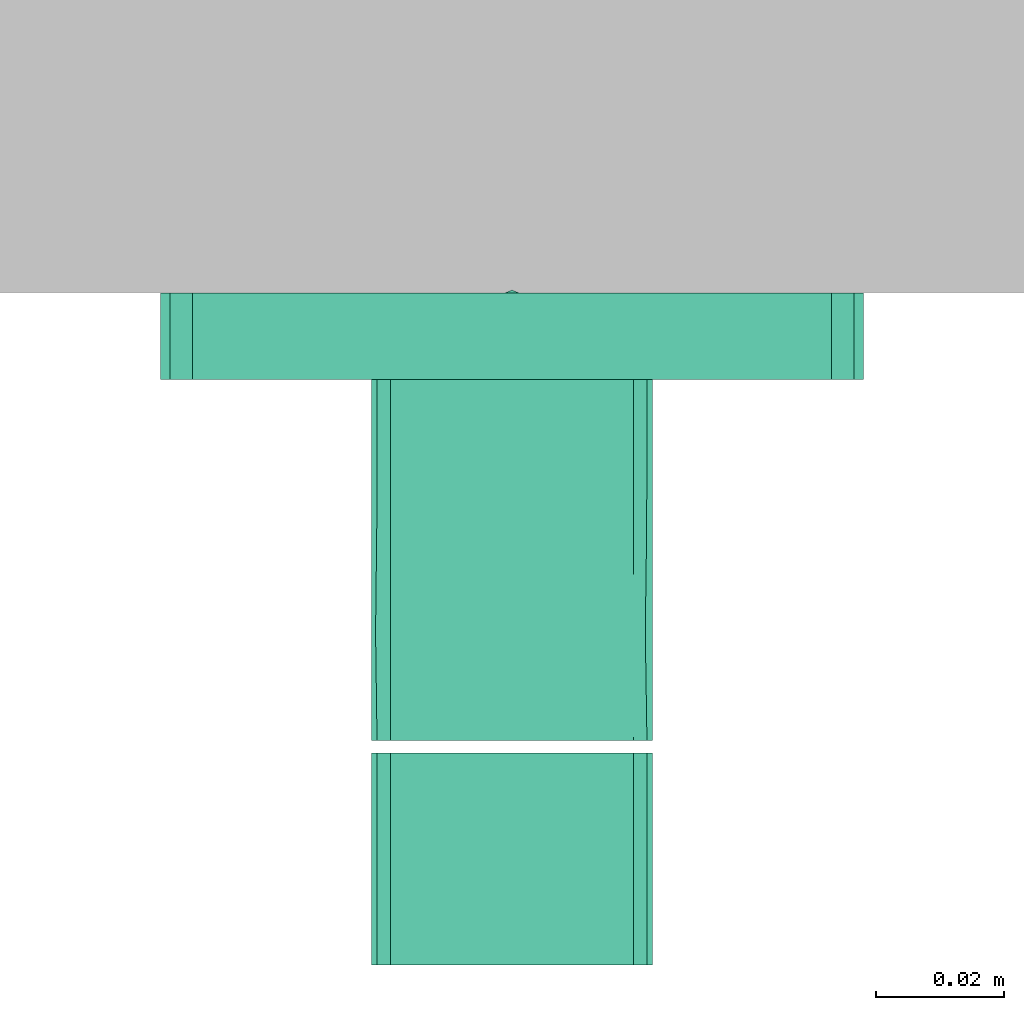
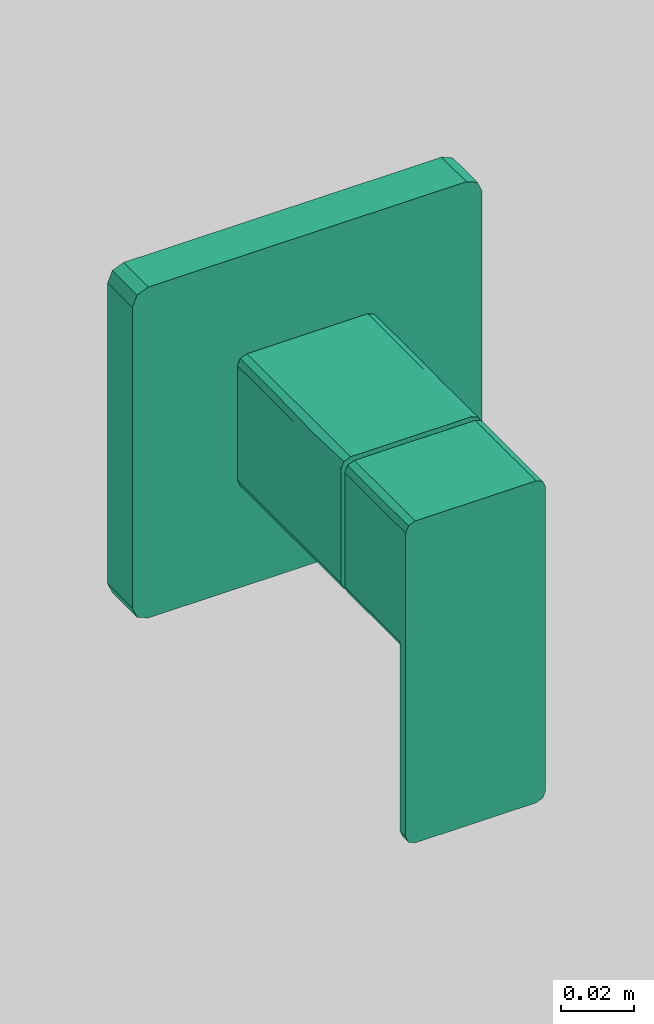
# One storey, part 2 of 2: 1 flow terminal.
"""IFC2X3 building model written with IfcOpenShell, lengths in millimetres."""

from ifc_helpers import new_model, entity, si_unit, converted_unit, derived_unit, direction, frame, origin, place, context, subcontext, project, spatial, faceted_brep, source, transform, mapped, material, type_object, type_shapes, element, save


model = new_model("IFC2X3")

# Units and contexts
model_context = context("Model", 3, precision=0.01, world=origin(), true_north=direction((6.12303176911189e-17, 1.0)))
body_context = subcontext(model_context, "Body", "Model", "MODEL_VIEW")
ifc_project = project(units=[si_unit("LENGTHUNIT", "METRE", prefix="MILLI"), si_unit("AREAUNIT", "SQUARE_METRE"), si_unit("VOLUMEUNIT", "CUBIC_METRE"), converted_unit("PLANEANGLEUNIT", "DEGREE", entity("IfcRatioMeasure", 0.0174532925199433), si_unit("PLANEANGLEUNIT", "RADIAN"), dimensions=[0, 0, 0, 0, 0, 0, 0]), si_unit("MASSUNIT", "GRAM", prefix="KILO"), derived_unit("MASSDENSITYUNIT", [(si_unit("MASSUNIT", "GRAM", prefix="KILO"), 1), (si_unit("LENGTHUNIT", "METRE"), -3)]), derived_unit("MOMENTOFINERTIAUNIT", [(si_unit("LENGTHUNIT", "METRE"), 4)]), si_unit("TIMEUNIT", "SECOND"), si_unit("FREQUENCYUNIT", "HERTZ"), si_unit("THERMODYNAMICTEMPERATUREUNIT", "DEGREE_CELSIUS"), derived_unit("THERMALTRANSMITTANCEUNIT", [(si_unit("MASSUNIT", "GRAM", prefix="KILO"), 1), (si_unit("THERMODYNAMICTEMPERATUREUNIT", "KELVIN"), -1), (si_unit("TIMEUNIT", "SECOND"), -3)]), derived_unit("VOLUMETRICFLOWRATEUNIT", [(si_unit("LENGTHUNIT", "METRE"), 3), (si_unit("TIMEUNIT", "SECOND"), -1)]), si_unit("ELECTRICCURRENTUNIT", "AMPERE"), si_unit("ELECTRICVOLTAGEUNIT", "VOLT"), si_unit("POWERUNIT", "WATT"), si_unit("FORCEUNIT", "NEWTON", prefix="KILO"), si_unit("ILLUMINANCEUNIT", "LUX"), si_unit("LUMINOUSFLUXUNIT", "LUMEN"), si_unit("LUMINOUSINTENSITYUNIT", "CANDELA"), derived_unit("USERDEFINED", [(si_unit("MASSUNIT", "GRAM", prefix="KILO"), -1), (si_unit("LENGTHUNIT", "METRE"), -2), (si_unit("TIMEUNIT", "SECOND"), 3), (si_unit("LUMINOUSFLUXUNIT", "LUMEN"), 1)]), derived_unit("LINEARVELOCITYUNIT", [(si_unit("LENGTHUNIT", "METRE"), 1), (si_unit("TIMEUNIT", "SECOND"), -1)]), si_unit("PRESSUREUNIT", "PASCAL"), derived_unit("USERDEFINED", [(si_unit("LENGTHUNIT", "METRE"), -2), (si_unit("MASSUNIT", "GRAM", prefix="KILO"), 1), (si_unit("TIMEUNIT", "SECOND"), -2)]), derived_unit("LINEARFORCEUNIT", [(si_unit("MASSUNIT", "GRAM", prefix="KILO"), 1), (si_unit("LENGTHUNIT", "METRE"), 1), (si_unit("TIMEUNIT", "SECOND"), -2), (si_unit("LENGTHUNIT", "METRE"), -1)]), derived_unit("PLANARFORCEUNIT", [(si_unit("MASSUNIT", "GRAM", prefix="KILO"), 1), (si_unit("LENGTHUNIT", "METRE"), 1), (si_unit("TIMEUNIT", "SECOND"), -2), (si_unit("LENGTHUNIT", "METRE"), -2)])], contexts=[model_context])

# Site, building, storey
site_placement = place(None, origin())
site = spatial("IfcSite", under=ifc_project, at=site_placement, Name="Default", CompositionType="ELEMENT")
building_placement = place(site_placement, origin())
building = spatial("IfcBuilding", under=site, at=building_placement, CompositionType="ELEMENT")
storey_placement = place(building_placement, origin())
storey = spatial("IfcBuildingStorey", under=building, at=storey_placement, Name="Level 1", CompositionType="ELEMENT", Elevation=0.0)

# Flow terminal
ifc_material = material(Name="Black")
distribution_element_type = type_object("IfcDistributionElementType", Name="FFAS1326-7T1440BF0_REVIT:Acacia E shower mono_Matt Black", material=ifc_material)
shared_shape = source(origin(), body_context, "Body", "Brep", [
    faceted_brep([(46.7211612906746, 25.4334847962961, 64.5952722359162), (56.5952722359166, 15.5593738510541, 64.5952722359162), (56.5952722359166, 29.523475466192, 64.5952722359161), (42.6311706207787, 15.5593738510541, 64.5952722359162), (46.7211612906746, 5.68526290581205, 64.5952722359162), (56.5952722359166, 1.59527223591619, 64.5952722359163), (66.4693831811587, 5.68526290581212, 64.5952722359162), (70.5593738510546, 15.5593738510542, 64.5952722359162), (66.4693831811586, 25.4334847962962, 64.5952722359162), (56.5952722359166, 5.05937385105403, 62.5952722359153), (47.50200549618, 10.3093738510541, 62.5952722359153), (47.50200549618, 20.8093738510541, 62.5952722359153), (56.5952722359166, 26.0593738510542, 62.5952722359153), (65.6885389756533, 20.8093738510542, 62.5952722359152), (65.6885389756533, 10.3093738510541, 62.5952722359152), (47.50200549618, 10.309373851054, 54.5952722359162), (56.5952722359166, 5.05937385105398, 54.5952722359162), (47.50200549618, 20.8093738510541, 54.595272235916), (56.5952722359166, 26.0593738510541, 54.595272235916), (65.6885389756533, 20.8093738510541, 54.595272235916), (65.6885389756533, 10.3093738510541, 54.5952722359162), (56.5952722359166, 15.559373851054, 54.5952722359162)], [[[0, 1, 2]], [[3, 1, 0]], [[3, 4, 1]], [[5, 1, 4]], [[5, 6, 1]], [[7, 1, 6]], [[7, 8, 1]], [[8, 2, 1]], [[5, 4, 9]], [[10, 9, 4]], [[4, 3, 10]], [[3, 0, 11]], [[0, 12, 11]], [[12, 0, 2]], [[3, 11, 10]], [[2, 8, 12]], [[13, 12, 8]], [[8, 7, 13]], [[7, 6, 14]], [[6, 9, 14]], [[9, 6, 5]], [[7, 14, 13]], [[9, 10, 15, 16]], [[10, 11, 17, 15]], [[11, 12, 18, 17]], [[12, 13, 19, 18]], [[13, 14, 20, 19]], [[14, 9, 16, 20]], [[17, 18, 21]], [[21, 15, 17]], [[18, 19, 21]], [[20, 21, 19]], [[21, 20, 16]], [[21, 16, 15]]]),
    faceted_brep([(78.5952722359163, 74.0593738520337, 105.595272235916), (77.716592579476, 74.0593738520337, 107.716592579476), (75.5952722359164, 74.0593738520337, 108.595272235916), (37.5952722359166, 74.0593738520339, 108.595272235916), (35.4739518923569, 74.0593738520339, 107.716592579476), (34.5952722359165, 74.0593738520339, 105.595272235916), (34.5952722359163, 74.0593738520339, 67.5952722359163), (35.4739518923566, 74.0593738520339, 65.4739518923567), (37.5952722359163, 74.0593738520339, 64.5952722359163), (75.5952722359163, 74.0593738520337, 64.5952722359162), (77.7165925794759, 74.0593738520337, 65.4739518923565), (78.5952722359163, 74.0593738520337, 67.5952722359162), (34.5952722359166, 107.259373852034, 105.595272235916), (35.473951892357, 107.259373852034, 107.716592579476), (37.5952722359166, 107.259373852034, 108.595272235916), (75.5952722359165, 107.259373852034, 108.595272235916), (77.7165925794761, 107.259373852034, 107.716592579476), (78.5952722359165, 107.259373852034, 105.595272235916), (78.5952722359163, 107.259373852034, 4.59527223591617), (77.7165925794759, 107.259373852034, 2.47395189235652), (75.5952722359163, 107.259373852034, 1.59527223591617), (37.5952722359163, 107.259373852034, 1.59527223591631), (35.4739518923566, 107.259373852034, 2.47395189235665), (34.5952722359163, 107.259373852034, 4.5952722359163), (75.5952722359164, 89.1788988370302, 108.595272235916), (75.5952722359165, 104.259373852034, 108.595272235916), (37.5952722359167, 104.259373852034, 108.595272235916), (37.5952722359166, 89.1788991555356, 108.595272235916), (34.5952722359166, 92.1398495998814, 105.595272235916), (35.4512433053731, 90.6593737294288, 107.693638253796), (34.595272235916, 104.259373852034, 4.5952722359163), (34.5952722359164, 104.259373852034, 67.5952722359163), (34.5952722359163, 89.1788987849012, 67.5952722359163), (35.3226571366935, 89.1593730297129, 65.636900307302), (35.4739518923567, 104.259373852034, 65.4739518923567), (37.5952722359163, 89.1788988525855, 64.5952722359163), (37.5952722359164, 104.259373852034, 64.5952722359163), (75.5952722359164, 104.259373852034, 64.5952722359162), (75.5952722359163, 89.1788986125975, 64.5952722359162), (77.5536440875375, 89.1593734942, 65.3226570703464), (77.716592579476, 104.259373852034, 65.4739518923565), (78.5952722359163, 89.1398489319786, 67.5952722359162), (78.5952722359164, 104.259373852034, 67.5952722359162), (78.5952722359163, 104.259373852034, 4.59527223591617), (78.5952722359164, 89.1788980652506, 105.595272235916), (77.7393012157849, 90.6593736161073, 107.693638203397), (35.4739518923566, 104.259373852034, 2.47395189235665), (37.5952722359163, 104.259373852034, 1.59527223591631), (75.5952722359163, 104.259373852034, 1.59527223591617), (77.7165925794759, 104.259373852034, 2.47395189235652)], [[[0, 1, 2, 3, 4, 5, 6, 7, 8, 9, 10, 11]], [[12, 13, 14, 15, 16, 17, 18, 19, 20, 21, 22, 23]], [[3, 2, 24, 25, 15, 14, 26, 27]], [[28, 29, 13]], [[26, 14, 13]], [[4, 3, 27]], [[26, 29, 27]], [[4, 29, 5]], [[13, 29, 26]], [[27, 29, 4]], [[5, 29, 28]], [[13, 12, 28]], [[5, 28, 12, 23, 30, 31, 32, 6]], [[33, 31, 34]], [[6, 32, 31, 33]], [[35, 34, 36]], [[8, 7, 35]], [[6, 33, 7]], [[35, 33, 34]], [[35, 7, 33]], [[8, 35, 36, 37, 38, 9]], [[39, 37, 40]], [[41, 11, 10]], [[40, 42, 41]], [[37, 39, 9, 38]], [[41, 10, 39]], [[9, 39, 10]], [[41, 39, 40]], [[0, 11, 41, 42, 43, 18, 17, 44]], [[45, 17, 16]], [[1, 0, 44]], [[44, 45, 1]], [[16, 15, 25]], [[1, 24, 2]], [[17, 45, 44]], [[24, 1, 45]], [[45, 16, 25]], [[24, 45, 25]], [[40, 37, 36, 34, 31, 30, 46, 47, 48, 49, 43, 42]], [[30, 23, 22, 46]], [[22, 21, 47, 46]], [[48, 47, 21, 20]], [[48, 20, 19, 49]], [[19, 18, 43, 49]]]),
    faceted_brep([(37.5952722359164, 15.5593738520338, 108.595272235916), (35.4739518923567, 15.5593738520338, 107.716592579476), (34.5952722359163, 15.5593738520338, 105.595272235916), (34.5952722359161, 15.5593738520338, 67.5952722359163), (35.4739518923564, 15.5593738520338, 65.4739518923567), (37.5952722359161, 15.5593738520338, 64.5952722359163), (75.5952722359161, 15.5593738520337, 64.5952722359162), (77.7165925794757, 15.5593738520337, 65.4739518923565), (78.5952722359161, 15.5593738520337, 67.5952722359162), (78.5952722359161, 15.5593738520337, 105.595272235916), (77.7165925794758, 15.5593738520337, 107.716592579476), (75.5952722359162, 15.5593738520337, 108.595272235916), (37.5952722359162, 72.0593738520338, 64.5952722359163), (35.4739518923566, 72.0593738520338, 65.4739518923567), (34.5952722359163, 72.0593738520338, 67.5952722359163), (34.5952722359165, 72.0593738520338, 105.595272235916), (35.4739518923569, 72.0593738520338, 107.716592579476), (37.5952722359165, 72.0593738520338, 108.595272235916), (75.5952722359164, 72.0593738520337, 108.595272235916), (77.716592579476, 72.0593738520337, 107.716592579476), (78.5952722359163, 72.0593738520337, 105.595272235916), (78.5952722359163, 72.0593738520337, 67.5952722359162), (77.7165925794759, 72.0593738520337, 65.4739518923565), (75.5952722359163, 72.0593738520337, 64.5952722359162), (34.5952722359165, 56.9398491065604, 105.595272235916), (35.7367399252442, 55.175602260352, 107.950236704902), (35.5130058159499, 38.2386596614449, 107.75494039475), (37.5952722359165, 45.7984218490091, 108.595272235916), (34.5952722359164, 43.8093738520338, 105.595272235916), (37.5952722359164, 30.6788984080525, 108.595272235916), (34.5952722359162, 45.7984231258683, 67.5952722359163), (34.5952722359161, 30.678898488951, 67.5952722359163), (37.5952722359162, 56.9398491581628, 64.5952722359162), (35.2403077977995, 55.1756004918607, 65.7367398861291), (35.4356040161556, 38.2386588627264, 65.5130058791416), (37.5952722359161, 43.8093738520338, 64.5952722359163), (75.5952722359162, 45.798422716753, 64.5952722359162), (75.5952722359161, 30.6788981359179, 64.5952722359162), (78.5952722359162, 56.9398487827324, 67.5952722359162), (77.4538045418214, 55.1756016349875, 65.2403077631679), (77.6775386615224, 38.2386591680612, 65.4356040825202), (78.5952722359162, 43.8093738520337, 67.5952722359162), (78.5952722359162, 45.7984226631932, 105.595272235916), (78.5952722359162, 30.6788982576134, 105.595272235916), (75.5952722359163, 56.9398494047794, 108.595272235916), (77.9502367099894, 55.1756020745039, 107.453804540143), (77.7549403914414, 38.2386594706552, 107.677538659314), (75.5952722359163, 43.8093738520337, 108.595272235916)], [[[0, 1, 2, 3, 4, 5, 6, 7, 8, 9, 10, 11]], [[12, 13, 14, 15, 16, 17, 18, 19, 20, 21, 22, 23]], [[16, 15, 24]], [[25, 26, 27]], [[2, 1, 26]], [[25, 28, 26]], [[28, 25, 24]], [[16, 25, 17]], [[1, 0, 29]], [[29, 26, 1]], [[26, 28, 2]], [[27, 26, 29]], [[17, 25, 27]], [[24, 25, 16]], [[3, 2, 28, 24, 15, 14, 30, 31]], [[13, 12, 32]], [[33, 34, 30]], [[5, 4, 34]], [[33, 35, 34]], [[35, 33, 32]], [[30, 34, 31]], [[13, 33, 14]], [[31, 34, 4]], [[34, 35, 5]], [[4, 3, 31]], [[14, 33, 30]], [[32, 33, 13]], [[5, 35, 32, 12, 23, 36, 37, 6]], [[22, 21, 38]], [[39, 40, 36]], [[8, 7, 40]], [[39, 41, 40]], [[41, 39, 38]], [[22, 39, 23]], [[7, 6, 37]], [[37, 40, 7]], [[40, 41, 8]], [[36, 40, 37]], [[23, 39, 36]], [[38, 39, 22]], [[8, 41, 38, 21, 20, 42, 43, 9]], [[19, 18, 44]], [[45, 46, 42]], [[11, 10, 46]], [[45, 47, 46]], [[47, 45, 44]], [[19, 45, 20]], [[10, 9, 43]], [[43, 46, 10]], [[46, 47, 11]], [[42, 46, 43]], [[20, 45, 42]], [[44, 45, 19]], [[11, 47, 44, 18, 17, 27, 29, 0]]]),
    faceted_brep([(6.59527223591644, 2.05937385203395, 141.595272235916), (3.05973832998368, 2.05937385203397, 140.130806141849), (1.59527223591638, 2.05937385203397, 136.595272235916), (1.595272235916, 2.05937385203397, 36.5952722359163), (3.05973832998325, 2.05937385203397, 33.0597383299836), (6.59527223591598, 2.05937385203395, 31.5952722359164), (106.595272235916, 2.05937385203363, 31.595272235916), (110.130806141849, 2.05937385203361, 33.0597383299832), (111.595272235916, 2.05937385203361, 36.5952722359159), (111.595272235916, 2.05937385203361, 136.595272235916), (110.130806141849, 2.05937385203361, 140.130806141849), (106.595272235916, 2.05937385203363, 141.595272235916), (6.59527223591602, 15.5593738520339, 31.5952722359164), (3.0597383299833, 15.559373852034, 33.0597383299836), (1.59527223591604, 15.559373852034, 36.5952722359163), (1.59527223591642, 15.559373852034, 136.595272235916), (3.05973832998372, 15.559373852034, 140.130806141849), (6.59527223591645, 15.5593738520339, 141.595272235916), (106.595272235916, 15.5593738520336, 141.595272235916), (110.130806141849, 15.5593738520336, 140.130806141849), (111.595272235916, 15.5593738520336, 136.595272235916), (111.595272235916, 15.5593738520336, 36.5952722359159), (110.130806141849, 15.5593738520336, 33.0597383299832), (106.595272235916, 15.5593738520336, 31.595272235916)], [[[0, 1, 2, 3, 4, 5, 6, 7, 8, 9, 10, 11]], [[12, 13, 14, 15, 16, 17, 18, 19, 20, 21, 22, 23]], [[0, 17, 16, 1]], [[16, 15, 2, 1]], [[3, 2, 15, 14]], [[3, 14, 13, 4]], [[13, 12, 5, 4]], [[6, 5, 12, 23]], [[6, 23, 22, 7]], [[22, 21, 8, 7]], [[9, 8, 21, 20]], [[9, 20, 19, 10]], [[19, 18, 11, 10]], [[0, 11, 18, 17]]]),
])
type_shapes(distribution_element_type, [shared_shape])
flow_terminal_placement = place(storey_placement, frame((-556.197659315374, 3036.89320361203, 1111.32677933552), z_axis=(0.0, 0.0, 1.0), x_axis=(-1.0, 0.0, 0.0)))
element("IfcFlowTerminal", 1, at=flow_terminal_placement, inside=storey, type_object=distribution_element_type, material=ifc_material, Name="FFAS1326-7T1440BF0_REVIT:Acacia E shower mono_Matt Black", ObjectType="FFAS1326-7T1440BF0_REVIT:Acacia E shower mono_Matt Black", context=body_context, shape_type="MappedRepresentation", body=[
    mapped(shared_shape, transform((0.0, 0.0, 0.0), scale=1.0)),
])

save(model, "model.ifc")
